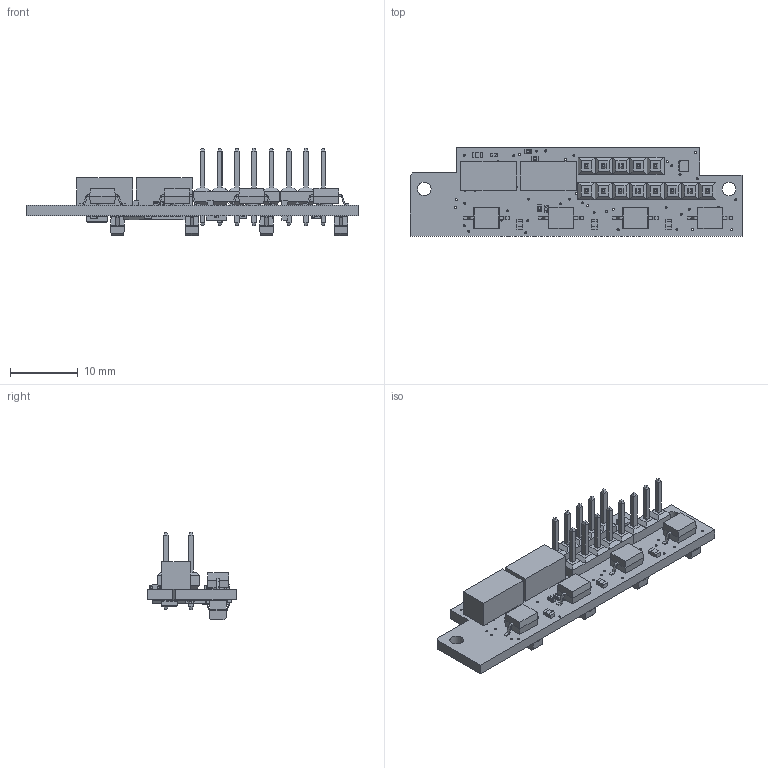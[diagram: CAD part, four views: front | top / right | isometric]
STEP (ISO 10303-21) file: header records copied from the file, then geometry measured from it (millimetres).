
FILE_DESCRIPTION(/* description */ (''),/* implementation_level */ '2;1');
FILE_NAME(/* name */ 'C:/Users/priba/Documents/Temp/mrm-ref-can4.step',/* time_stamp */ '2019-11-25T22:52:29+01:00',/* author */ (''),/* organization */ (''),/* preprocessor_version */ 'ST-DEVELOPER v18',/* originating_system */ 'Autodesk Translation Framework v8.12.0.6',/* authorisation */ '');
FILE_SCHEMA (('AUTOMOTIVE_DESIGN { 1 0 10303 214 3 1 1 }'));
Length unit declared in the file: millimetre
Products named in the file (31): mrm-ref-can4; PCB Component; Board; OPTEK_OP181; ON_SEMICONDUCTOR_QSB363GR; Body; FilletPinL; FilletPinR; 10 kOhm; FIDUCIAL1X2; STM32F072C8U6; Body (1); ThermalPin; PinsArrayLR; PinsArrayTB; INFINEON_TLE9250XLEXUMA1; JST_BM04B-GHK-TBT; 1X05; TOSHIBA_SSM3J338R,LFSOT23; 1.5 kOhm; 1X03; 100 nF; TI_TPD8E003DQDR; Body (2); ThermalPin (1); PinsArrayLR (1); TI_ESD321DPYR; term1; term2; body_1; CHIPLED_0402
Assembly tree (54 placements, depth 4):
  mrm-ref-can4
    PCB Component
      Board
      OPTEK_OP181  x4
      ON_SEMICONDUCTOR_QSB363GR  x4
        Body
        FilletPinL
        FilletPinR
      10 kOhm  x5
      FIDUCIAL1X2  x4
      STM32F072C8U6
        Body (1)
        ThermalPin
        PinsArrayLR
        PinsArrayTB
      INFINEON_TLE9250XLEXUMA1
      JST_BM04B-GHK-TBT  x2
      1X05  x2
      TOSHIBA_SSM3J338R,LFSOT23
      1.5 kOhm  x5
      1X03
      100 nF  x6
      TI_TPD8E003DQDR
        Body (2)
        ThermalPin (1)
        PinsArrayLR (1)
      TI_ESD321DPYR
        term1
        term2
        body_1
      CHIPLED_0402
Bounding box: 49 x 13.1 x 12.85 mm (x, y, z)
Volume: 1605.1 mm3; surface area: 3198.4 mm2
Topology: 123 solids, 123 shells, 2318 faces, 5802 edges, 3727 vertices
Faces by surface type: plane 1546, cylinder 528, sphere 156, bspline 88
Full cylindrical faces by diameter (mm): 0.169 x1, 0.3 x58, 0.875 x1, 1.016 x13, 1.8 x4, 1.956 x4, 2 x2
Entity records: 38933 total; most frequent: CARTESIAN_POINT 8737, ORIENTED_EDGE 5812, DIRECTION 5675, EDGE_CURVE 2906, LINE 2087, VECTOR 2087, VERTEX_POINT 1863, AXIS2_PLACEMENT_3D 1794
